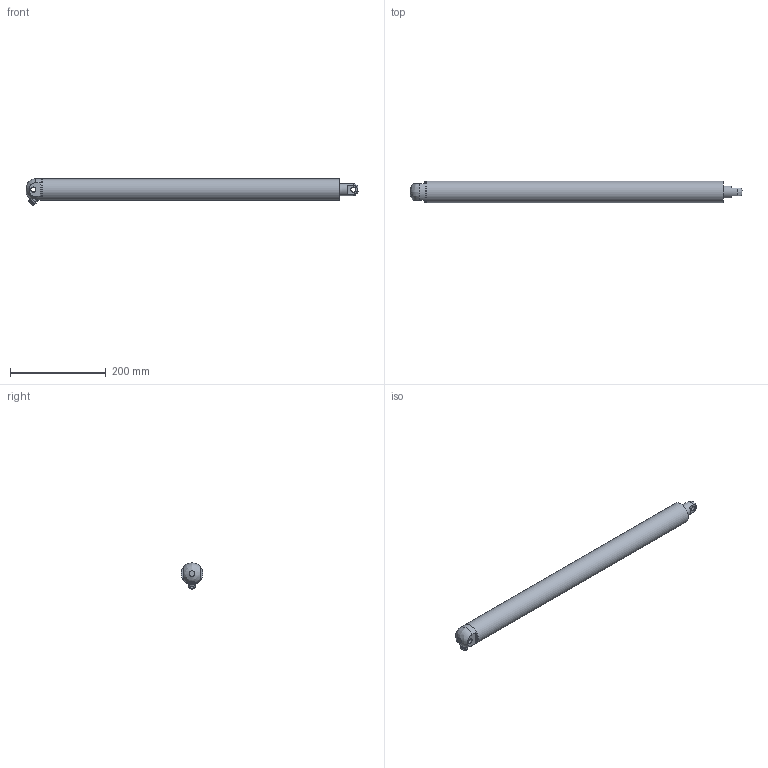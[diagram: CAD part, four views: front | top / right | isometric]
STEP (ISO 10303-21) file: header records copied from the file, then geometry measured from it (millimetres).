
FILE_DESCRIPTION( ( 'Unknown' ), '1' );
FILE_NAME( 'Z:/12¬ãµo³¡/Project/Automation/Linear Actuators/CAD/ELA45/STEP/ELA45400B.stp', 'Unknown', ( 'Unknown' ), ( 'Unknown' ), 'PSStep 10.0', 'Unknown', ' ' );
FILE_SCHEMA( ( 'AUTOMOTIVE_DESIGN { 1 0 10303 214 1 1 1 1 }' ) );
Length unit declared in the file: millimetre
Products named in the file (1): 1
Bounding box: 695 x 45 x 54.83 mm (x, y, z)
Volume: 262871.8 mm3; surface area: 180311.3 mm2
Topology: 1 solids, 2 shells, 64 faces, 157 edges, 102 vertices
Faces by surface type: plane 32, cylinder 22, cone 7, bspline 2, torus 1
Full cylindrical faces by diameter (mm): 6.4 x1, 10.1 x2, 13.8 x2, 25 x1, 40 x1, 45 x2
Entity records: 2566 total; most frequent: CARTESIAN_POINT 604, DIRECTION 312, ORIENTED_EDGE 262, EDGE_CURVE 131, AXIS2_PLACEMENT_3D 125, VERTEX_POINT 95, EDGE_LOOP 92, FACE_OUTER_BOUND 76
